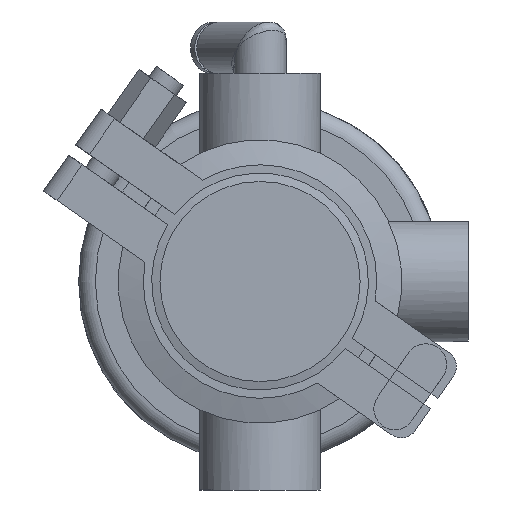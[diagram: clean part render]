
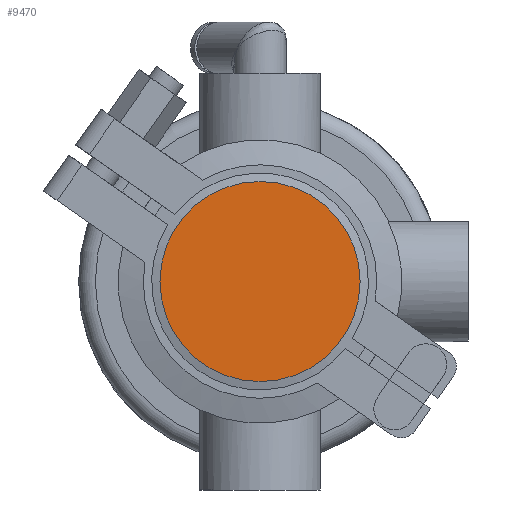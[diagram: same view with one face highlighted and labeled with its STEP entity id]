
A CAD part, front view. The second image highlights one B-rep face of the part: STEP entity #9470.
In plain terms, the highlighted planar face has unit normal (0, -1, 0).
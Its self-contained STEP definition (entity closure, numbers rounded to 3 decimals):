
#81 = CARTESIAN_POINT ( 'NONE',  ( 0., 0., 0. ) ) ;
#699 = CIRCLE ( 'NONE', #20035, 24. ) ;
#2566 = CARTESIAN_POINT ( 'NONE',  ( -24., 0., 0. ) ) ;
#2862 = DIRECTION ( 'NONE',  ( 0., 0., -1. ) ) ;
#3803 = EDGE_LOOP ( 'NONE', ( #10659 ) ) ;
#4281 = AXIS2_PLACEMENT_3D ( 'NONE', #2566, #7651, #2862 ) ;
#4441 = PLANE ( 'NONE',  #4281 ) ;
#4802 = DIRECTION ( 'NONE',  ( 0., 0., 1. ) ) ;
#6446 = DIRECTION ( 'NONE',  ( 0., 1., 0. ) ) ;
#7639 = EDGE_CURVE ( 'NONE', #12461, #12461, #699, .T. ) ;
#7651 = DIRECTION ( 'NONE',  ( 0., -1., 0. ) ) ;
#9470 = ADVANCED_FACE ( 'NONE', ( #10491 ), #4441, .T. ) ;
#10491 = FACE_OUTER_BOUND ( 'NONE', #3803, .T. ) ;
#10659 = ORIENTED_EDGE ( 'NONE', *, *, #7639, .F. ) ;
#12461 = VERTEX_POINT ( 'NONE', #13928 ) ;
#13928 = CARTESIAN_POINT ( 'NONE',  ( 0., 0., 24. ) ) ;
#20035 = AXIS2_PLACEMENT_3D ( 'NONE', #81, #6446, #4802 ) ;
